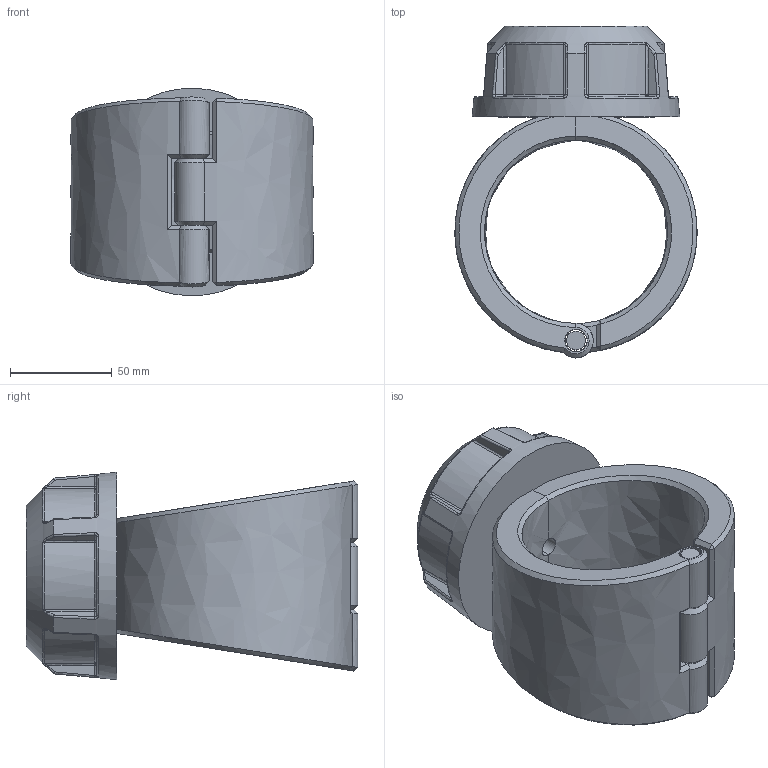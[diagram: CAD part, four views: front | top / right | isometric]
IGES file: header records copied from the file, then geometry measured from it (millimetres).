
Global section: file name: 163000090005; native system: Autodesk Inventor 2019; preprocessor: unknown; author: comp2; date: 20220203.114701; units: millimetre
Bounding box: 119 x 163 x 101.9 mm (x, y, z)
Volume: 614491.4 mm3; surface area: 96177.8 mm2
Topology: 4 solids, 4 shells, 203 faces, 486 edges, 293 vertices
Faces by surface type: bspline 203
